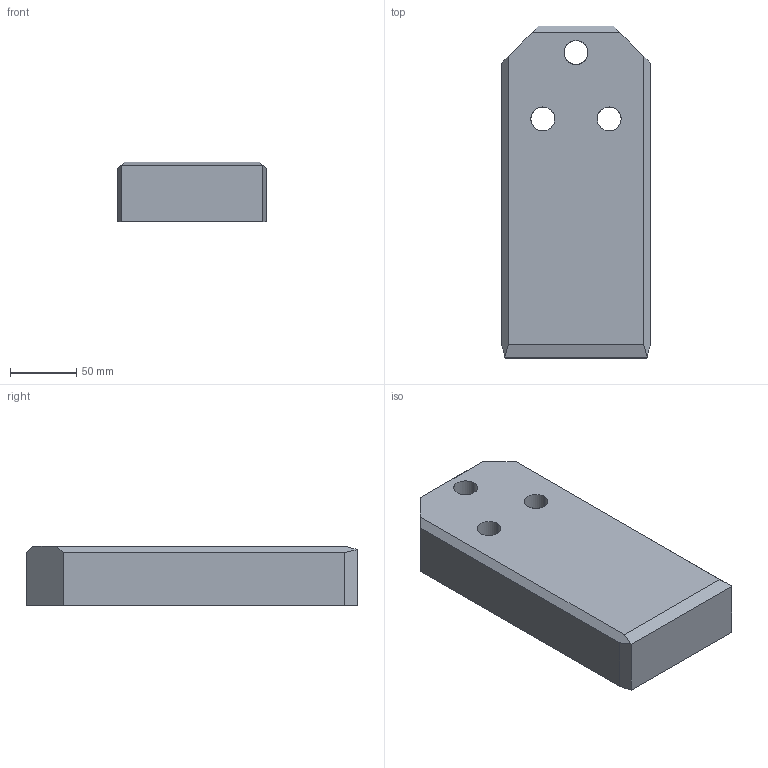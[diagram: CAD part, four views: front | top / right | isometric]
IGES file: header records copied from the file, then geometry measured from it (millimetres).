
Start section: START RECORD GO HERE.
Global section: file name: A927-112X250X45.igs; native system: DASSAULT SYSTEMES CATIA V5 R20 - www.3ds.com; preprocessor: CATIA Version 5 Release 20 ; author: Utente; organization: NB04-ASUS; date: 20200408.202313; units: millimetre
Bounding box: 112 x 250 x 45 mm (x, y, z)
Surface area: 90930.6 mm2 (no closed solid volume)
Topology: 0 solids, 0 shells, 35 faces, 168 edges, 168 vertices
Faces by surface type: revolution 18, extrusion 17
